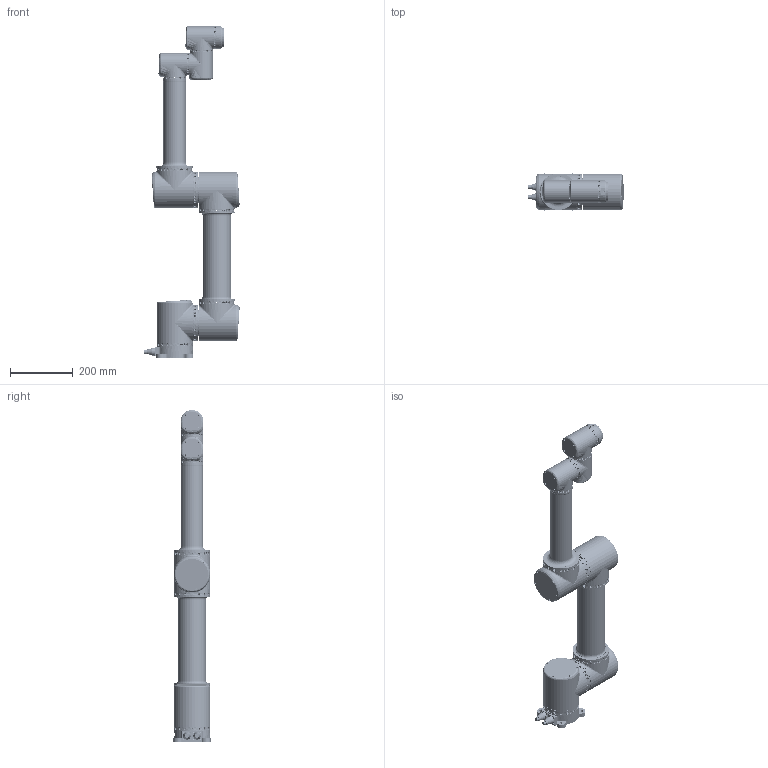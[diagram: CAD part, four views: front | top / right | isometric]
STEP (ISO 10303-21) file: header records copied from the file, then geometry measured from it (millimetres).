
FILE_DESCRIPTION (( 'STEP AP214' ), '1' );
FILE_NAME ('eRobot 5.STEP', '2026-05-21T03:49:12', ( 'Windows User' ), ( 'P R C' ), 'SwSTEP 2.0', 'SolidWorks 2021', '' );
FILE_SCHEMA (( 'AUTOMOTIVE_DESIGN' ));
Length unit declared in the file: millimetre
Products named in the file (15): 2-054-006 3kg﹜5kg藺傷楊擘; 2-091-002 5kg媼壽誹蟀裝; 110樑粣; 3-091-001 菁釱鍼踢; 2-130-004 机器人三轴外壳转接; eRob110H℅℅T; 2-091-005 5kg三关节连杆; 瑤脣鼠芛; 2-130-003 机器人三轴输出转接; 2-091-001 5kg菁釱; eRob70H℅℅T; eRobot 5; 瑤脣; 过线钣金+8mm双面护线圈; 盄擢悵誘杶
Assembly tree (27 placements, depth 2):
  eRobot 5
    2-091-001 5kg菁釱
    3-091-001 菁釱鍼踢
    eRob110H℅℅T  x3
    2-091-002 5kg媼壽誹蟀裝
    2-130-003 机器人三轴输出转接
    2-130-004 机器人三轴外壳转接
    110樑粣
    2-091-005 5kg三关节连杆
    eRob70H℅℅T  x3
    2-054-006 3kg﹜5kg藺傷楊擘
    瑤脣  x2
    瑤脣鼠芛  x2
    盄擢悵誘杶  x6
    过线钣金+8mm双面护线圈  x3
Bounding box: 304.46 x 118.31 x 1060.8 mm (x, y, z)
Volume: 6417152.6 mm3; surface area: 1580250.5 mm2
Topology: 124 solids, 226 shells, 22310 faces, 58019 edges, 37018 vertices
Faces by surface type: plane 13577, cylinder 4358, bspline 2328, cone 868, torus 792, sphere 387
Full cylindrical faces by diameter (mm): 1.25 x9, 1.6 x51, 1.8 x3, 2.5 x102, 3 x51, 3.2 x4, 3.3 x120, 3.4 x41, 3.5 x20, 4 x66, 4.5 x180, 5 x4, 5.8 x12, 6 x32, 6.5 x4, 6.8 x8, 7 x85, 8 x142, 8.2 x4, 9 x11, 10 x1, 11.6 x2, 15 x8, 16 x6, 17.4 x6, 17.9 x12, 18 x13, 20 x4, 20.5 x2, 21 x3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
Entity records: 420819 total; most frequent: CARTESIAN_POINT 143834, ORIENTED_EDGE 39618, DIRECTION 36668, EDGE_CURVE 19809, VERTEX_POINT 13177, LINE 13138, VECTOR 13138, AXIS2_PLACEMENT_3D 11765
